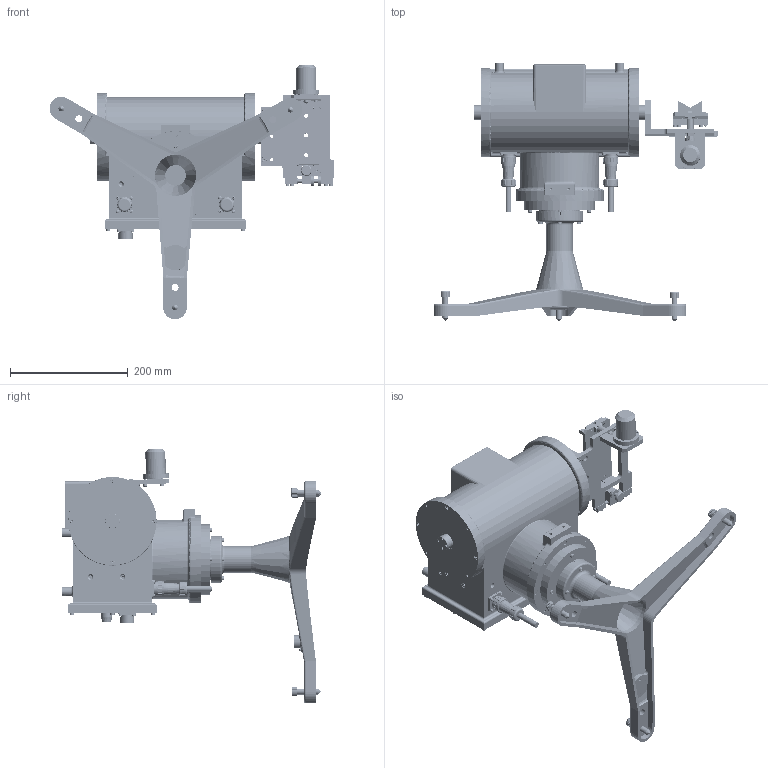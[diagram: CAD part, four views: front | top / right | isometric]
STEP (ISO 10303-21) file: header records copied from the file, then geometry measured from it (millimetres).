
FILE_DESCRIPTION (( 'STEP AP203' ), '1' );
FILE_NAME ('STR-22G.STEP', '2023-03-29T08:38:06', ( '' ), ( '' ), 'SwSTEP 2.0', 'SolidWorks 2022', '' );
FILE_SCHEMA (( 'CONFIG_CONTROL_DESIGN' ));
Products named in the file (1): STR-22G
Bounding box: 484.3 x 440.5 x 433.16 mm (x, y, z)
Volume: 9772432.8 mm3; surface area: 633372.3 mm2
Topology: 104 solids, 114 shells, 5813 faces, 14205 edges, 8851 vertices
Faces by surface type: plane 2611, cylinder 1355, bspline 755, cone 633, torus 421, sphere 38
Entity records: 196365 total; most frequent: CARTESIAN_POINT 63927, ORIENTED_EDGE 27930, DIRECTION 26445, EDGE_CURVE 13965, AXIS2_PLACEMENT_3D 9806, VERTEX_POINT 8851, VECTOR 6833, LINE 6833
